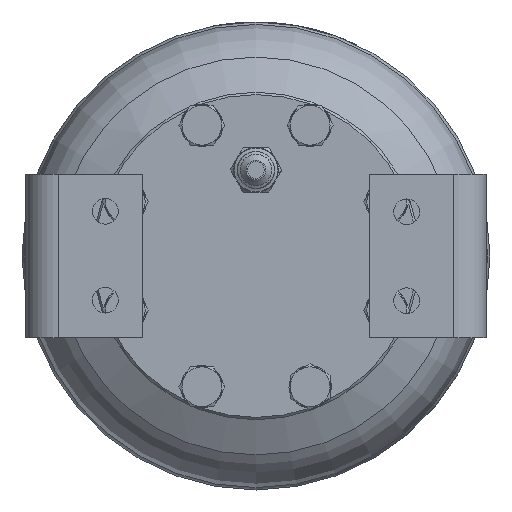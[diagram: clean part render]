
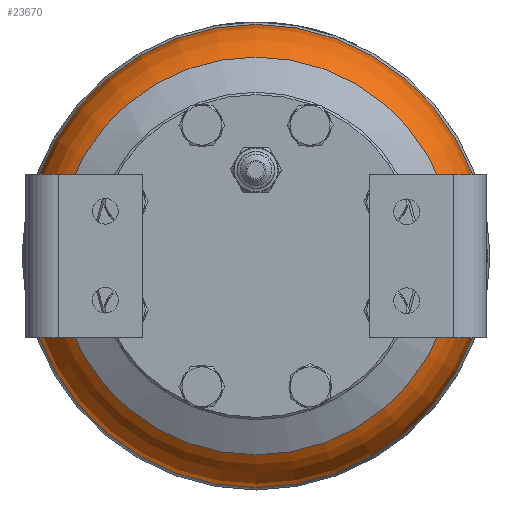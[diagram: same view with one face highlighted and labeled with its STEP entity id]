
A CAD part, front view. The second image highlights one B-rep face of the part: STEP entity #23670.
In plain terms, the highlighted toroidal (fillet/blend) face has major radius 69 mm and minor radius 30 mm.
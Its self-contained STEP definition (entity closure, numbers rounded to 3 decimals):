
#210=TOROIDAL_SURFACE('',#25767,69.,30.);
#1149=FACE_BOUND('',#8265,.T.);
#6669=FACE_OUTER_BOUND('',#8264,.T.);
#8264=EDGE_LOOP('',(#22061));
#8265=EDGE_LOOP('',(#22062));
#9670=CIRCLE('',#25766,85.047);
#9671=CIRCLE('',#25768,99.);
#11955=VERTEX_POINT('',#47621);
#11956=VERTEX_POINT('',#47624);
#15344=EDGE_CURVE('',#11955,#11955,#9670,.T.);
#15345=EDGE_CURVE('',#11956,#11956,#9671,.T.);
#22061=ORIENTED_EDGE('',*,*,#15344,.F.);
#22062=ORIENTED_EDGE('',*,*,#15345,.T.);
#23670=ADVANCED_FACE('',(#6669,#1149),#210,.T.);
#25766=AXIS2_PLACEMENT_3D('',#47622,#31408,#31409);
#25767=AXIS2_PLACEMENT_3D('',#47623,#31410,#31411);
#25768=AXIS2_PLACEMENT_3D('',#47625,#31412,#31413);
#31408=DIRECTION('center_axis',(0.,-1.,0.));
#31409=DIRECTION('ref_axis',(1.,0.,0.));
#31410=DIRECTION('center_axis',(0.,-1.,0.));
#31411=DIRECTION('ref_axis',(0.,0.,1.));
#31412=DIRECTION('center_axis',(0.,-1.,0.));
#31413=DIRECTION('ref_axis',(1.,0.,0.));
#47621=CARTESIAN_POINT('',(85.047,-172.983,0.));
#47622=CARTESIAN_POINT('Origin',(0.,-172.983,
0.));
#47623=CARTESIAN_POINT('Origin',(0.,-147.635,
0.));
#47624=CARTESIAN_POINT('',(99.,-147.635,0.));
#47625=CARTESIAN_POINT('Origin',(0.,-147.635,
0.));
